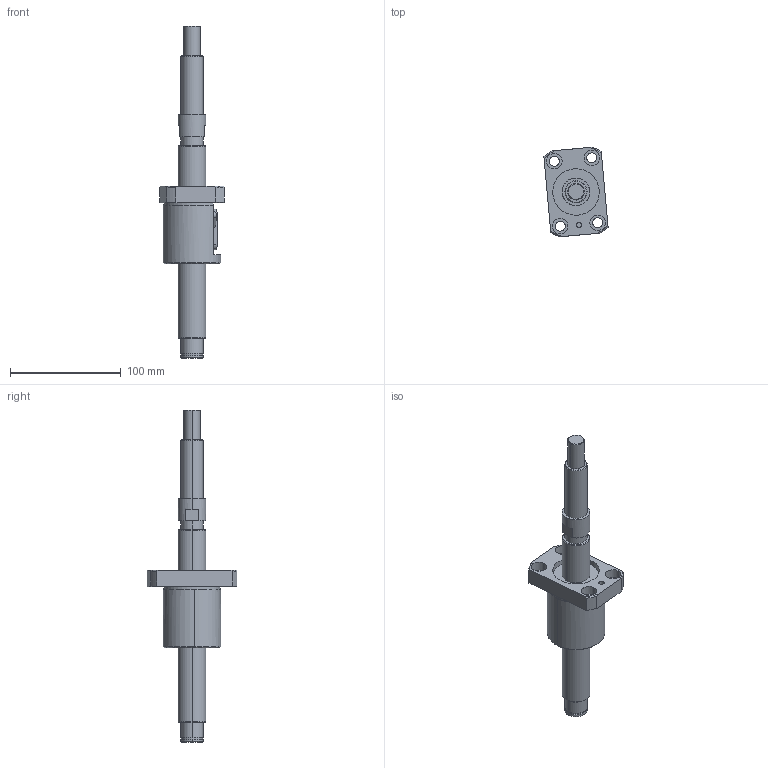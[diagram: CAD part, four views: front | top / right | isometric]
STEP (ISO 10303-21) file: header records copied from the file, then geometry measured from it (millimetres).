
FILE_DESCRIPTION (( 'STEP AP203' ), '1' );
FILE_NAME ('TS2520_assy_20160716.STEP', '2016-07-16T04:54:24', ( 'user' ), ( 'Hewlett-Packard Company' ), 'SwSTEP 2.0', 'SolidWorks 2014', '' );
FILE_SCHEMA (( 'CONFIG_CONTROL_DESIGN' ));
Length unit declared in the file: millimetre
Products named in the file (3): TS2520_nut; TS2520_screw; TS2520_assy_20160716
Assembly tree (2 placements, depth 2):
  TS2520_assy_20160716
    TS2520_nut
    TS2520_screw
Bounding box: 57.96 x 80.94 x 300 mm (x, y, z)
Volume: 242549.4 mm3; surface area: 50925.7 mm2
Topology: 2 solids, 2 shells, 111 faces, 263 edges, 170 vertices
Faces by surface type: cylinder 54, plane 33, cone 20, sphere 4
Entity records: 3558 total; most frequent: DIRECTION 607, CARTESIAN_POINT 603, ORIENTED_EDGE 518, EDGE_CURVE 259, AXIS2_PLACEMENT_3D 252, VERTEX_POINT 168, EDGE_LOOP 137, CIRCLE 136
